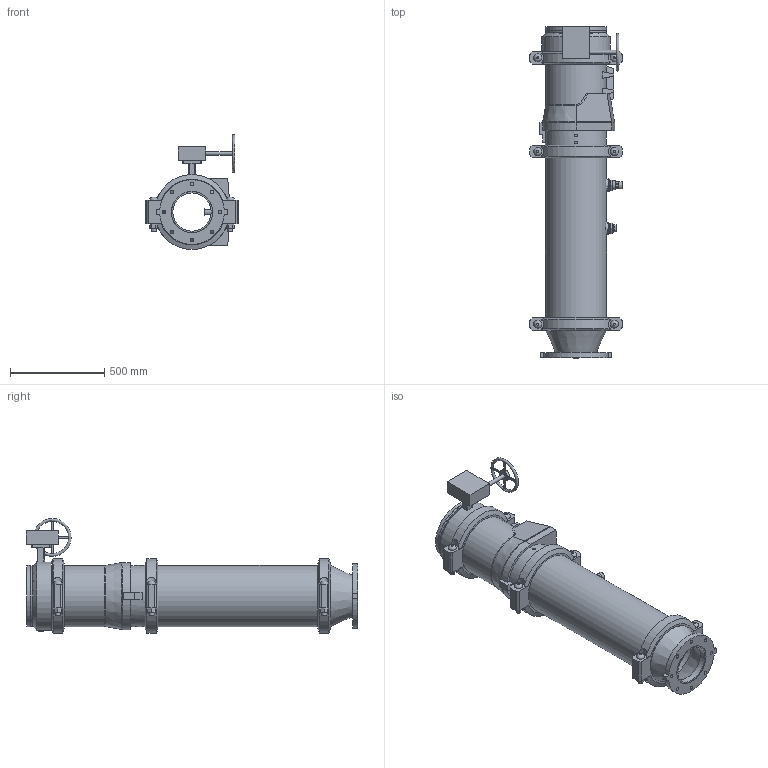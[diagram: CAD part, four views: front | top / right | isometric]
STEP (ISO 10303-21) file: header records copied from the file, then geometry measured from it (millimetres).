
FILE_DESCRIPTION(/* description */ ('VIC DVI PUMP DROP VERT S/380 (OGSxFLG) (S/924-0.75)','CAx-IF Rec.Pracs.---Representation and Presentation of Product Manufacturing Information (PMI)---4.0---2014-10-13'),/* implementation_level */ '2;1');
FILE_NAME(/* name */ 'C:\Users\Public\Documents\Victaulic.Temp\A765\Victaulic_IPS_Vertical DVI_CL 150_Series 380 (OGSxFLG)_924 (0.75)_12.0x08.0 (300x200).stp',/* time_stamp */ '2022-07-25T11:14:50+02:00',/* author */ ('Vjadhav'),/* organization */ ('Victaulic'),/* preprocessor_version */ 'ST-DEVELOPER v18',/* originating_system */ 'Autodesk Inventor 2020',/* authorisation */ '');
FILE_SCHEMA (('AP242_MANAGED_MODEL_BASED_3D_ENGINEERING_MIM_LF { 1 0 10303 442 1 1 4 }'));
Length unit declared in the file: inch
Products named in the file (9): 380_924 (0.75)-12.0x08.0; 741-08.0; 050-12.0x08.0; Pipe-12.0; 779-12.0; 923-10.0x0.75; 924-10.0x0.75; 761-12.0; 077-12.0
Assembly tree (10 placements, depth 2):
  380_924 (0.75)-12.0x08.0
    741-08.0
    050-12.0x08.0
    Pipe-12.0
    779-12.0
    923-10.0x0.75
    924-10.0x0.75
    761-12.0
    077-12.0  x3
Bounding box: 488.95 x 1760.22 x 609.46 mm (x, y, z)
Volume: 38045680.3 mm3; surface area: 5073882.3 mm2
Topology: 10 solids, 17 shells, 494 faces, 1242 edges, 846 vertices
Faces by surface type: plane 299, cylinder 160, cone 20, bspline 8, torus 7
Full cylindrical faces by diameter (mm): 10.922 x4, 13.716 x4, 19.05 x8, 20.066 x1, 21.336 x1, 22.86 x1, 25.4 x12, 26.67 x2, 27.432 x6, 31.75 x1, 38.608 x1, 45.974 x4, 55.626 x2, 63.079 x1, 70.104 x1, 76.2 x1, 202.717 x1, 214.401 x1, 219.075 x3, 303.225 x2, 304.8 x2, 314.96 x3, 318.287 x7, 323.85 x19, 361.95 x1
Entity records: 12775 total; most frequent: CARTESIAN_POINT 2550, DIRECTION 2078, ORIENTED_EDGE 1904, EDGE_CURVE 952, AXIS2_PLACEMENT_3D 792, VERTEX_POINT 650, LINE 494, VECTOR 494
